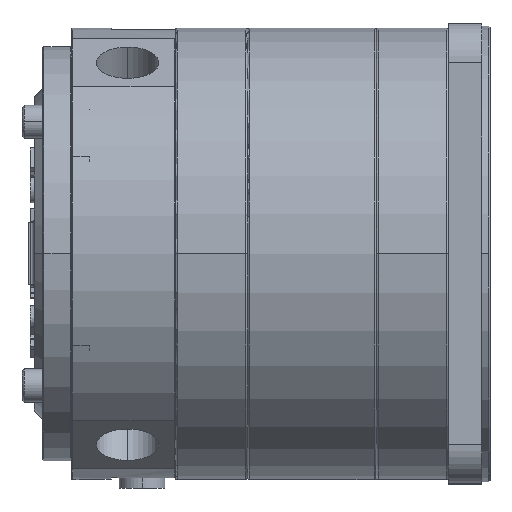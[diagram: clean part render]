
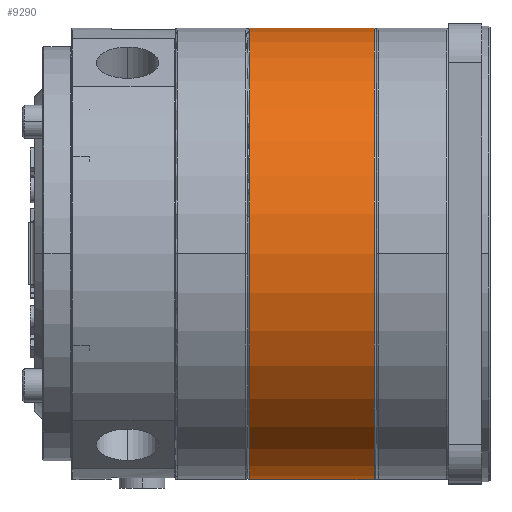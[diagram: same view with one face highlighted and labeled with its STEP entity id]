
A CAD part, top view. The second image highlights one B-rep face of the part: STEP entity #9290.
In plain terms, the highlighted cylindrical face has radius 109 mm (diameter 218 mm), a partial arc.
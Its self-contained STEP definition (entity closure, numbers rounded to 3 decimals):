
#8630=CARTESIAN_POINT('',(-96.,109.,0.));
#8640=VERTEX_POINT('',#8630);
#8670=CARTESIAN_POINT('',(-96.,0.,0.
));
#8680=DIRECTION('',(-1.,0.,0.));
#8690=DIRECTION('',(0.,1.,0.));
#8700=AXIS2_PLACEMENT_3D('',#8670,#8680,#8690);
#8710=CIRCLE('',#8700,109.);
#8720=CARTESIAN_POINT('',(-96.,-109.,0.))
;
#8730=VERTEX_POINT('',#8720);
#8740=EDGE_CURVE('',#8730,#8640,#8710,.T.);
#8980=CARTESIAN_POINT('',(-97.,0.,0.
));
#8990=DIRECTION('',(-1.,0.,0.));
#9000=DIRECTION('',(0.,1.,0.));
#9010=AXIS2_PLACEMENT_3D('',#8980,#8990,#9000);
#9020=CYLINDRICAL_SURFACE('',#9010,109.);
#9030=CARTESIAN_POINT('',(-97.,109.,0.));
#9040=DIRECTION('',(-1.,0.,0.));
#9050=VECTOR('',#9040,1.);
#9060=LINE('',#9030,#9050);
#9070=CARTESIAN_POINT('',(-36.,109.,0.));
#9080=VERTEX_POINT('',#9070);
#9090=EDGE_CURVE('',#9080,#8640,#9060,.T.);
#9100=ORIENTED_EDGE('',*,*,#9090,.T.);
#9110=CARTESIAN_POINT('',(-36.,0.,0.)
);
#9120=DIRECTION('',(-1.,0.,0.));
#9130=DIRECTION('',(0.,1.,0.));
#9140=AXIS2_PLACEMENT_3D('',#9110,#9120,#9130);
#9150=CIRCLE('',#9140,109.);
#9160=CARTESIAN_POINT('',(-36.,-109.,0.))
;
#9170=VERTEX_POINT('',#9160);
#9180=EDGE_CURVE('',#9170,#9080,#9150,.T.);
#9190=ORIENTED_EDGE('',*,*,#9180,.T.);
#9200=CARTESIAN_POINT('',(-97.,-109.,0.))
;
#9210=DIRECTION('',(-1.,0.,0.));
#9220=VECTOR('',#9210,1.);
#9230=LINE('',#9200,#9220);
#9240=EDGE_CURVE('',#9170,#8730,#9230,.T.);
#9250=ORIENTED_EDGE('',*,*,#9240,.F.);
#9260=ORIENTED_EDGE('',*,*,#8740,.F.);
#9270=EDGE_LOOP('',(#9260,#9250,#9190,#9100));
#9280=FACE_OUTER_BOUND('',#9270,.T.);
#9290=ADVANCED_FACE('',(#9280),#9020,.T.);
